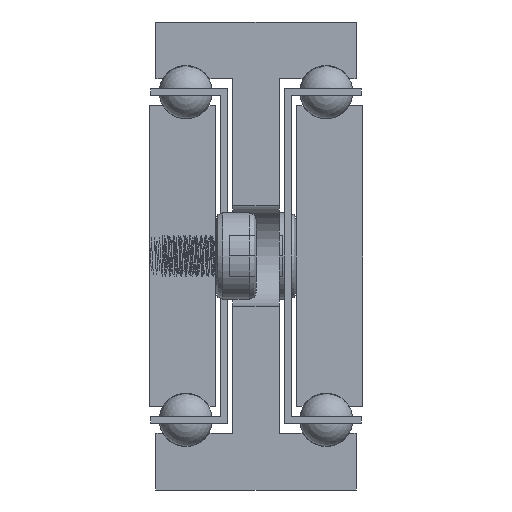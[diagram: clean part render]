
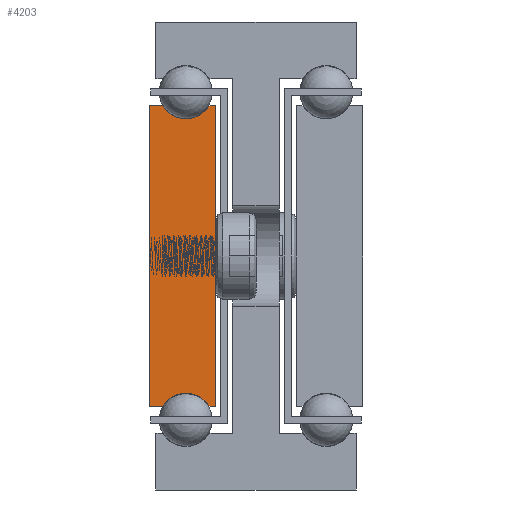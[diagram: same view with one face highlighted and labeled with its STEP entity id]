
A CAD part, front view. The second image highlights one B-rep face of the part: STEP entity #4203.
In plain terms, the highlighted planar face has unit normal (0, -1, 0).
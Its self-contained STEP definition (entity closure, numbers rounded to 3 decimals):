
#573=CIRCLE('',#4491,4.);
#575=CIRCLE('',#4497,4.);
#849=FACE_OUTER_BOUND('',#1117,.T.);
#1117=EDGE_LOOP('',(#3302,#3303,#3304,#3305,#3306,#3307,#3308,#3309));
#1492=LINE('',#66038,#1704);
#1495=LINE('',#66044,#1707);
#1499=LINE('',#66056,#1711);
#1502=LINE('',#66062,#1714);
#1505=LINE('',#66068,#1717);
#1509=LINE('',#66078,#1721);
#1704=VECTOR('',#4994,1.);
#1707=VECTOR('',#4999,1.);
#1711=VECTOR('',#5011,1.);
#1714=VECTOR('',#5016,1.);
#1717=VECTOR('',#5021,1.);
#1721=VECTOR('',#5033,1.);
#1972=VERTEX_POINT('',#66035);
#1973=VERTEX_POINT('',#66037);
#1975=VERTEX_POINT('',#66043);
#1977=VERTEX_POINT('',#66049);
#1979=VERTEX_POINT('',#66055);
#1981=VERTEX_POINT('',#66061);
#1983=VERTEX_POINT('',#66067);
#1985=VERTEX_POINT('',#66073);
#2490=EDGE_CURVE('',#1973,#1972,#1492,.T.);
#2493=EDGE_CURVE('',#1975,#1973,#1495,.T.);
#2496=EDGE_CURVE('',#1977,#1975,#573,.T.);
#2499=EDGE_CURVE('',#1979,#1977,#1499,.T.);
#2502=EDGE_CURVE('',#1981,#1979,#1502,.T.);
#2505=EDGE_CURVE('',#1983,#1981,#1505,.T.);
#2508=EDGE_CURVE('',#1985,#1983,#575,.T.);
#2511=EDGE_CURVE('',#1972,#1985,#1509,.T.);
#3302=ORIENTED_EDGE('',*,*,#2511,.T.);
#3303=ORIENTED_EDGE('',*,*,#2508,.T.);
#3304=ORIENTED_EDGE('',*,*,#2505,.T.);
#3305=ORIENTED_EDGE('',*,*,#2502,.T.);
#3306=ORIENTED_EDGE('',*,*,#2499,.T.);
#3307=ORIENTED_EDGE('',*,*,#2496,.T.);
#3308=ORIENTED_EDGE('',*,*,#2493,.T.);
#3309=ORIENTED_EDGE('',*,*,#2490,.T.);
#4073=PLANE('',#4500);
#4203=ADVANCED_FACE('',(#849),#4073,.T.);
#4491=AXIS2_PLACEMENT_3D('',#66050,#5005,#5006);
#4497=AXIS2_PLACEMENT_3D('',#66074,#5027,#5028);
#4500=AXIS2_PLACEMENT_3D('',#66080,#5036,#5037);
#4994=DIRECTION('',(0.,0.,-1.));
#4999=DIRECTION('',(-1.,0.,0.));
#5005=DIRECTION('center_axis',(0.,1.,0.));
#5006=DIRECTION('ref_axis',(-0.866,0.,-0.5));
#5011=DIRECTION('',(-1.,0.,0.));
#5016=DIRECTION('',(0.,0.,1.));
#5021=DIRECTION('',(1.,0.,0.));
#5027=DIRECTION('center_axis',(0.,1.,0.));
#5028=DIRECTION('ref_axis',(0.866,0.,0.5));
#5033=DIRECTION('',(1.,0.,0.));
#5036=DIRECTION('center_axis',(0.,-1.,0.));
#5037=DIRECTION('ref_axis',(1.,0.,0.));
#66035=CARTESIAN_POINT('',(-1711.423,-474.311,-57.5));
#66037=CARTESIAN_POINT('',(-1711.423,-474.311,-12.5));
#66038=CARTESIAN_POINT('',(-1711.423,-474.311,-57.5));
#66043=CARTESIAN_POINT('',(-1709.387,-474.311,-12.5));
#66044=CARTESIAN_POINT('',(-1711.423,-474.311,-12.5));
#66049=CARTESIAN_POINT('',(-1702.459,-474.311,-12.5));
#66050=CARTESIAN_POINT('Origin',(-1705.923,-474.311,-10.5));
#66055=CARTESIAN_POINT('',(-1701.423,-474.311,-12.5));
#66056=CARTESIAN_POINT('',(-1702.459,-474.311,-12.5));
#66061=CARTESIAN_POINT('',(-1701.423,-474.311,-57.5));
#66062=CARTESIAN_POINT('',(-1701.423,-474.311,-12.5));
#66067=CARTESIAN_POINT('',(-1702.459,-474.311,-57.5));
#66068=CARTESIAN_POINT('',(-1701.423,-474.311,-57.5));
#66073=CARTESIAN_POINT('',(-1709.387,-474.311,-57.5));
#66074=CARTESIAN_POINT('Origin',(-1705.923,-474.311,-59.5));
#66078=CARTESIAN_POINT('',(-1709.387,-474.311,-57.5));
#66080=CARTESIAN_POINT('Origin',(-1706.429,-474.311,-35.));
